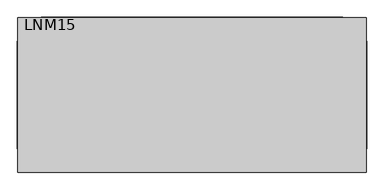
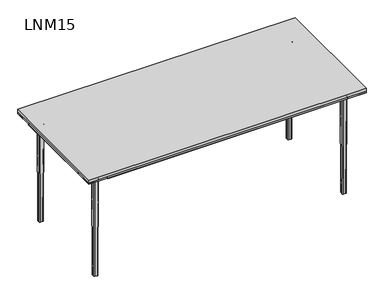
"""IFC4 building model written with IfcOpenShell, lengths in millimetres: furniture geometry, Contact Desks and Operative Twin Desks : LNM15."""

from ifc_helpers import new_model, si_unit, point, frame, origin, place, context, project, spatial, polyline, circle_curve, ellipse_curve, trimmed, outline, extrude, faceted_brep, source, transform, mapped, element, save
from ifc_brep_helpers import plane_surface, cylinder_surface, revolved_surface, extruded_surface, advanced_brep


def lnm15_e7bb8237(model_context):
    return source(origin(), model_context, "Body", "SolidModel", [
        extrude(outline(polyline([(900.0, -280.0), (900.0, -400.0), (780.0, -400.0), (780.0, -280.0), (900.0, -280.0)])), frame((0.0, 0.0, 710.0), z_axis=(0.0, 0.0, 1.0), x_axis=(1.0, 0.0, 0.0)), (0.0, 0.0, 1.0), 10.0),
        extrude(outline(polyline([(900.0, 400.0), (900.0, 280.0), (780.0, 280.0), (780.0, 400.0), (900.0, 400.0)])), frame((0.0, 0.0, 710.0), z_axis=(0.0, 0.0, 1.0), x_axis=(1.0, 0.0, 0.0)), (0.0, 0.0, 1.0), 10.0),
        extrude(outline(polyline([(-780.0, 400.0), (-780.0, 280.0), (-900.0, 280.0), (-900.0, 400.0), (-780.0, 400.0)])), frame((0.0, 0.0, 710.0), z_axis=(0.0, 0.0, 1.0), x_axis=(1.0, 0.0, 0.0)), (0.0, 0.0, 1.0), 10.0),
        extrude(outline(polyline([(-900.0, 280.0), (-780.0, 280.0), (-780.0, -280.0), (-900.0, -280.0), (-900.0, 280.0)])), frame((0.0, 0.0, 710.0), z_axis=(0.0, 0.0, 1.0), x_axis=(1.0, 0.0, 0.0)), (0.0, 0.0, 1.0), 10.0),
        extrude(outline(polyline([(780.0, 280.0), (900.0, 280.0), (900.0, -280.0), (780.0, -280.0), (780.0, 280.0)])), frame((0.0, 0.0, 710.0), z_axis=(0.0, 0.0, 1.0), x_axis=(1.0, 0.0, 0.0)), (0.0, 0.0, 1.0), 10.0),
        extrude(outline(polyline([(780.0, -280.0), (780.0, -400.0), (-780.0, -400.0), (-780.0, -280.0), (780.0, -280.0)])), frame((0.0, 0.0, 710.0), z_axis=(0.0, 0.0, 1.0), x_axis=(1.0, 0.0, 0.0)), (0.0, 0.0, 1.0), 10.0),
        extrude(outline(polyline([(780.0, 400.0), (780.0, 280.0), (-780.0, 280.0), (-780.0, 400.0), (780.0, 400.0)])), frame((0.0, 0.0, 710.0), z_axis=(0.0, 0.0, 1.0), x_axis=(1.0, 0.0, 0.0)), (0.0, 0.0, 1.0), 10.0),
        extrude(outline(polyline([(710.0, 780.0), (675.0, 780.0), (675.0, 828.7129935), (710.0, 901.7129935), (710.0, 780.0)])), frame((0.0, -280.0, 0.0), z_axis=(0.0, 1.0, 0.0), x_axis=(0.0, 0.0, 1.0)), (0.0, 0.0, 1.0), 560.0),
        extrude(outline(polyline([(710.0, -780.0), (710.0, -901.7129935), (675.0, -828.7129935), (675.0, -780.0), (710.0, -780.0)])), frame((0.0, -280.0, 0.0), z_axis=(0.0, 1.0, 0.0), x_axis=(0.0, 0.0, 1.0)), (0.0, 0.0, 1.0), 560.0),
        extrude(outline(polyline([(280.0, 710.0), (401.7129935, 710.0), (328.7129935, 675.0), (280.0, 675.0), (280.0, 710.0)])), frame((-780.0, 0.0, 0.0), z_axis=(1.0, 0.0, 0.0), x_axis=(0.0, 1.0, 0.0)), (0.0, 0.0, 1.0), 1560.0),
        extrude(outline(polyline([(-280.0, 710.0), (-280.0, 675.0), (-328.7129935, 675.0), (-401.7129935, 710.0), (-280.0, 710.0)])), frame((-780.0, 0.0, 0.0), z_axis=(1.0, 0.0, 0.0), x_axis=(0.0, 1.0, 0.0)), (0.0, 0.0, 1.0), 1560.0),
        faceted_brep([(-780.0, 280.0, 710.0), (-780.0, 400.0, 710.0), (-900.0, 400.0, 710.0), (-900.0, 280.0, 710.0), (-780.0, 280.0, 675.0), (-827.0, 280.0, 675.0), (-827.0, 327.0, 675.0), (-780.0, 327.0, 675.0)], [[[0, 1, 2, 3]], [[4, 5, 6, 7]], [[1, 0, 4, 7]], [[0, 3, 5, 4]], [[6, 2, 1, 7]], [[2, 6, 5, 3]]]),
        advanced_brep(
        [(-787.0, 295.0, 675.0), (-787.0, 319.0, 675.0), (-795.0, 327.0, 675.0), (-819.0, 327.0, 675.0), (-827.0, 319.0, 675.0), (-827.0, 295.0, 675.0), (-819.0, 287.0, 675.0), (-795.0, 287.0, 675.0), (-819.0, 292.0, 665.0), (-822.0, 295.0, 665.0), (-822.0, 319.0, 665.0), (-819.0, 322.0, 665.0), (-795.0, 322.0, 665.0), (-792.0, 319.0, 665.0), (-792.0, 295.0, 665.0), (-795.0, 292.0, 665.0), (-787.0, 295.0, 672.0), (-787.0, 319.0, 672.0), (-795.0, 327.0, 672.0), (-819.0, 327.0, 672.0), (-827.0, 319.0, 672.0), (-827.0, 295.0, 672.0), (-819.0, 287.0, 672.0), (-795.0, 287.0, 672.0)],
        [
            (0, 1),
            (1, 2, circle_curve(frame((-795.0, 319.0, 675.0), z_axis=(0.0, 0.0, 1.0), x_axis=(0.0, -1.0000000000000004, 0.0)), 8.0)),
            (2, 3),
            (3, 4, circle_curve(frame((-819.0, 319.0, 675.0), z_axis=(0.0, 0.0, 1.0), x_axis=(0.0, -1.0000000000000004, 0.0)), 8.0)),
            (4, 5),
            (5, 6, circle_curve(frame((-819.0, 295.0, 675.0), z_axis=(0.0, 0.0, 1.0), x_axis=(0.0, -1.0000000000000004, 0.0)), 8.0)),
            (6, 7),
            (7, 0, circle_curve(frame((-795.0, 295.0, 675.0), z_axis=(0.0, 0.0, 1.0), x_axis=(0.0, -1.0000000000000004, 0.0)), 8.0)),
            (8, 9, circle_curve(frame((-819.0, 295.0, 665.0), z_axis=(0.0, 0.0, -1.0), x_axis=(0.0, -1.0000000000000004, 0.0)), 3.0)),
            (9, 10),
            (10, 11, circle_curve(frame((-819.0, 319.0, 665.0), z_axis=(0.0, 0.0, -1.0), x_axis=(-1.0000000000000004, 0.0, 0.0)), 3.0)),
            (11, 12),
            (12, 13, circle_curve(frame((-795.0, 319.0, 665.0), z_axis=(0.0, 0.0, -1.0), x_axis=(0.0, 1.0000000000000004, 0.0)), 3.0)),
            (13, 14),
            (14, 15, circle_curve(frame((-795.0, 295.0, 665.0), z_axis=(0.0, 0.0, -1.0), x_axis=(1.0000000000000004, 0.0, 0.0)), 3.0)),
            (15, 8),
            (0, 16),
            (16, 17),
            (17, 1),
            (17, 18, circle_curve(frame((-795.0, 319.0, 672.0), z_axis=(0.0, 0.0, 1.0), x_axis=(0.0, -1.0000000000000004, 0.0)), 8.0)),
            (18, 2),
            (18, 19),
            (19, 3),
            (19, 20, circle_curve(frame((-819.0, 319.0, 672.0), z_axis=(0.0, 0.0, 1.0), x_axis=(0.0, -1.0000000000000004, 0.0)), 8.0)),
            (20, 4),
            (20, 21),
            (21, 5),
            (21, 22, circle_curve(frame((-819.0, 295.0, 672.0), z_axis=(0.0, 0.0, 1.0), x_axis=(0.0, -1.0000000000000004, 0.0)), 8.0)),
            (22, 6),
            (22, 23),
            (23, 7),
            (23, 16, circle_curve(frame((-795.0, 295.0, 672.0), z_axis=(0.0, 0.0, 1.0), x_axis=(0.0, -1.0000000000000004, 0.0)), 8.0)),
            (21, 9, circle_curve(frame((-830.9600528, 295.0, 663.8856766), z_axis=(0.0, 1.0000000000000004, 0.0), x_axis=(-1.0000000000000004, 0.0, 0.0)), 9.0290787)),
            (8, 22, circle_curve(frame((-819.0, 283.0399472, 663.8856766), z_axis=(1.0000000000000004, 0.0, 0.0), x_axis=(0.0, -1.0000000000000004, 0.0)), 9.0290787)),
            (20, 10, circle_curve(frame((-830.9600528, 319.0, 663.8856766), z_axis=(0.0, 1.0, 0.0), x_axis=(-1.0000000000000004, 0.0, 0.0)), 9.0290787)),
            (19, 11, circle_curve(frame((-819.0, 330.9600528, 663.8856766), z_axis=(1.0000000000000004, 0.0, 0.0), x_axis=(0.0, 1.0000000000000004, 0.0)), 9.0290787)),
            (18, 12, circle_curve(frame((-795.0, 330.9600528, 663.8856766), z_axis=(1.0, 0.0, 0.0), x_axis=(0.0, 1.0000000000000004, 0.0)), 9.0290787)),
            (17, 13, circle_curve(frame((-783.0399472, 319.0, 663.8856766), z_axis=(0.0, -1.0000000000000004, 0.0), x_axis=(1.0000000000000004, 0.0, 0.0)), 9.0290787)),
            (16, 14, circle_curve(frame((-783.0399472, 295.0, 663.8856766), z_axis=(0.0, -1.0, 0.0), x_axis=(1.0000000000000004, 0.0, 0.0)), 9.0290787)),
            (23, 15, circle_curve(frame((-795.0, 283.0399472, 663.8856766), z_axis=(-1.0000000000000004, 0.0, 0.0), x_axis=(0.0, -1.0000000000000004, 0.0)), 9.0290787)),
        ],
        [
            plane_surface(frame((-787.0, 980.663284, 675.0), z_axis=(0.0, 0.0, 1.0), x_axis=(0.0, 1.0, 0.0))),
            plane_surface(frame((-787.0, 980.663284, 665.0), z_axis=(0.0, 0.0, -1.0), x_axis=(0.0, -1.0, 0.0))),
            plane_surface(frame((-787.0, 295.0, 675.0), z_axis=(1.0, 0.0, 0.0), x_axis=(0.0, 0.0, -1.0))),
            cylinder_surface(frame((-795.0, 319.0, 665.0), z_axis=(0.0, 0.0, 1.0), x_axis=(0.0, -1.0000000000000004, 0.0)), 8.0),
            plane_surface(frame((-795.0, 327.0, 675.0), z_axis=(0.0, 1.0, 0.0), x_axis=(0.0, 0.0, -1.0))),
            cylinder_surface(frame((-819.0, 319.0, 665.0), z_axis=(0.0, 0.0, 1.0), x_axis=(0.0, -1.0000000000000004, 0.0)), 8.0),
            plane_surface(frame((-827.0, 319.0, 675.0), z_axis=(-1.0, 0.0, 0.0), x_axis=(0.0, 0.0, -1.0))),
            cylinder_surface(frame((-819.0, 295.0, 665.0), z_axis=(0.0, 0.0, 1.0), x_axis=(0.0, -1.0000000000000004, 0.0)), 8.0),
            plane_surface(frame((-819.0, 287.0, 675.0), z_axis=(0.0, -1.0, 0.0), x_axis=(0.0, 0.0, -1.0))),
            cylinder_surface(frame((-795.0, 295.0, 665.0), z_axis=(0.0, 0.0, 1.0), x_axis=(0.0, -1.0000000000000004, 0.0)), 8.0),
            revolved_surface(trimmed(ellipse_curve(frame((-819.0, 283.0399472, 663.8856766), z_axis=(-1.0000000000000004, 0.0, 0.0), x_axis=(0.0, -1.0000000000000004, 0.0)), 9.0290787, 9.0290787), [point((-819.0, 287.0, 672.0))], [point((-819.0, 292.0, 665.0))], True, "CARTESIAN"), (-819.0, 295.0, 0.0), (0.0, 0.0, -1.0)),
            revolved_surface(polyline([(-839.9891315, 295.0, 663.8856766), (-839.9891315, 319.0, 663.8856766)]), (-830.9600528, 295.0, 663.8856766), (0.0, -1.0000000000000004, 0.0)),
            revolved_surface(trimmed(ellipse_curve(frame((-830.9600528, 319.0, 663.8856766), z_axis=(0.0, 1.0000000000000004, 0.0), x_axis=(-1.0000000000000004, 0.0, 0.0)), 9.0290787, 9.0290787), [point((-827.0, 319.0, 672.0))], [point((-822.0, 319.0, 665.0))], True, "CARTESIAN"), (-819.0, 319.0, 0.0), (0.0, 0.0, -1.0)),
            revolved_surface(polyline([(-819.0, 339.98913150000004, 663.8856766), (-795.0, 339.98913150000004, 663.8856766)]), (-819.0, 330.9600528, 663.8856766), (-1.0000000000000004, 0.0, 0.0)),
            revolved_surface(trimmed(ellipse_curve(frame((-795.0, 330.9600528, 663.8856766), z_axis=(1.0000000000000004, 0.0, 0.0), x_axis=(0.0, 1.0000000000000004, 0.0)), 9.0290787, 9.0290787), [point((-795.0, 327.0, 672.0))], [point((-795.0, 322.0, 665.0))], True, "CARTESIAN"), (-795.0, 319.0, 0.0), (0.0, 0.0, -1.0)),
            revolved_surface(polyline([(-774.0108685, 319.0, 663.8856766), (-774.0108685, 295.0, 663.8856766)]), (-783.0399472, 319.0, 663.8856766), (0.0, 1.0000000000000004, 0.0)),
            revolved_surface(trimmed(ellipse_curve(frame((-783.0399472, 295.0, 663.8856766), z_axis=(0.0, -1.0000000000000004, 0.0), x_axis=(1.0000000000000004, 0.0, 0.0)), 9.0290787, 9.0290787), [point((-787.0, 295.0, 672.0))], [point((-792.0, 295.0, 665.0))], True, "CARTESIAN"), (-795.0, 295.0, 0.0), (0.0, 0.0, -1.0)),
            revolved_surface(polyline([(-795.0, 274.01086849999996, 663.8856766), (-819.0, 274.01086849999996, 663.8856766)]), (-795.0, 283.0399472, 663.8856766), (1.0000000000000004, 0.0, 0.0)),
        ],
        [
            (0, [[1, 2, 3, 4, 5, 6, 7, 8]]),
            (1, [[9, 10, 11, 12, 13, 14, 15, 16]]),
            (2, [[-1, 17, 18, 19]]),
            (3, [[-2, -19, 20, 21]]),
            (4, [[-3, -21, 22, 23]]),
            (5, [[-4, -23, 24, 25]]),
            (6, [[-5, -25, 26, 27]]),
            (7, [[-6, -27, 28, 29]]),
            (8, [[-7, -29, 30, 31]]),
            (9, [[-8, -31, 32, -17]]),
            (10, [[33, -9, 34, -28]]),
            (11, [[-33, -26, 35, -10]]),
            (12, [[-35, -24, 36, -11]]),
            (13, [[-36, -22, 37, -12]]),
            (14, [[-37, -20, 38, -13]]),
            (15, [[-38, -18, 39, -14]]),
            (16, [[-39, -32, 40, -15]]),
            (17, [[-34, -16, -40, -30]]),
        ],
    ),
        advanced_brep(
        [(-819.0, 322.0, 665.0), (-822.0, 319.0, 665.0), (-822.0, 295.0, 665.0), (-819.0, 292.0, 665.0), (-795.0, 292.0, 665.0), (-792.0, 295.0, 665.0), (-792.0, 319.0, 665.0), (-795.0, 322.0, 665.0), (-816.0, 319.0, 0.0), (-798.0, 319.0, 0.0), (-795.0, 316.0, 0.0), (-795.0, 298.0, 0.0), (-798.0, 295.0, 0.0), (-816.0, 295.0, 0.0), (-819.0, 298.0, 0.0), (-819.0, 316.0, 0.0)],
        [
            (0, 1, circle_curve(frame((-819.0, 319.0, 665.0), z_axis=(0.0, 0.0, 1.0), x_axis=(0.0, -1.0, 0.0)), 3.0)),
            (1, 2),
            (2, 3, circle_curve(frame((-819.0, 295.0, 665.0), z_axis=(0.0, 0.0, 1.0), x_axis=(0.0, -1.0, 0.0)), 3.0)),
            (3, 4),
            (4, 5, circle_curve(frame((-795.0, 295.0, 665.0), z_axis=(0.0, 0.0, 1.0), x_axis=(0.0, -1.0, 0.0)), 3.0)),
            (5, 6),
            (6, 7, circle_curve(frame((-795.0, 319.0, 665.0), z_axis=(0.0, 0.0, 1.0), x_axis=(0.0, -1.0, 0.0)), 3.0)),
            (7, 0),
            (8, 9),
            (9, 10, circle_curve(frame((-798.0, 316.0, 0.0), z_axis=(0.0, 0.0, -1.0), x_axis=(0.0, -1.0, 0.0)), 3.0)),
            (10, 11),
            (11, 12, circle_curve(frame((-798.0, 298.0, 0.0), z_axis=(0.0, 0.0, -1.0), x_axis=(0.0, -1.0, 0.0)), 3.0)),
            (12, 13),
            (13, 14, circle_curve(frame((-816.0, 298.0, 0.0), z_axis=(0.0, 0.0, -1.0), x_axis=(0.0, -1.0, 0.0)), 3.0)),
            (14, 15),
            (15, 8, circle_curve(frame((-816.0, 316.0, 0.0), z_axis=(0.0, 0.0, -1.0), x_axis=(0.0, -1.0, 0.0)), 3.0)),
            (15, 1),
            (0, 8),
            (14, 2),
            (13, 3),
            (12, 4),
            (11, 5),
            (10, 6),
            (9, 7),
        ],
        [
            plane_surface(frame((-807.0, 307.0, 665.0), z_axis=(0.0, 0.0, 1.0), x_axis=(0.0, 1.0, 0.0))),
            plane_surface(frame((-807.0, 307.0, 0.0), z_axis=(0.0, 0.0, -1.0), x_axis=(0.0, 1.0, 0.0))),
            extruded_surface(trimmed(circle_curve(frame((-816.0, 316.0, 0.0), z_axis=(0.0, 0.0, 1.0), x_axis=(0.0, -1.0, 0.0)), 3.0), [point((-816.0, 319.0, 0.0))], [point((-819.0, 316.0, 0.0))], True, "CARTESIAN"), (-3.0, 3.0, 665.0), 665.0135336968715),
            plane_surface(frame((-819.0, 307.0, 0.0), z_axis=(-0.9999898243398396, 0.0, -0.004511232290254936), x_axis=(0.0, -1.0, 0.0))),
            extruded_surface(trimmed(circle_curve(frame((-816.0, 298.0, 0.0), z_axis=(0.0, 0.0, 1.0), x_axis=(0.0, -1.0, 0.0)), 3.0), [point((-819.0, 298.0, 0.0))], [point((-816.0, 295.0, 0.0))], True, "CARTESIAN"), (-3.0, -3.0, 665.0), 665.0135336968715),
            plane_surface(frame((-807.0, 295.0, 0.0), z_axis=(0.0, -0.9999898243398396, -0.004511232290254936), x_axis=(1.0, 0.0, 0.0))),
            extruded_surface(trimmed(circle_curve(frame((-798.0, 298.0, 0.0), z_axis=(0.0, 0.0, 1.0), x_axis=(0.0, -1.0, 0.0)), 3.0), [point((-798.0, 295.0, 0.0))], [point((-795.0, 298.0, 0.0))], True, "CARTESIAN"), (3.0, -3.0, 665.0), 665.0135336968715),
            plane_surface(frame((-795.0, 307.0, 0.0), z_axis=(0.9999898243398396, 0.0, -0.004511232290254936), x_axis=(0.0, 1.0, 0.0))),
            extruded_surface(trimmed(circle_curve(frame((-798.0, 316.0, 0.0), z_axis=(0.0, 0.0, 1.0), x_axis=(0.0, -1.0, 0.0)), 3.0), [point((-795.0, 316.0, 0.0))], [point((-798.0, 319.0, 0.0))], True, "CARTESIAN"), (3.0, 3.0, 665.0), 665.0135336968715),
            plane_surface(frame((-807.0, 319.0, 0.0), z_axis=(0.0, 0.9999898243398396, -0.004511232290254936), x_axis=(-1.0, 0.0, 0.0))),
        ],
        [
            (0, [[1, 2, 3, 4, 5, 6, 7, 8]]),
            (1, [[9, 10, 11, 12, 13, 14, 15, 16]]),
            (2, [[-16, 17, -1, 18]]),
            (3, [[-15, 19, -2, -17]]),
            (4, [[-14, 20, -3, -19]]),
            (5, [[-13, 21, -4, -20]]),
            (6, [[-12, 22, -5, -21]]),
            (7, [[-11, 23, -6, -22]]),
            (8, [[-10, 24, -7, -23]]),
            (9, [[-9, -18, -8, -24]]),
        ],
    ),
        faceted_brep([(780.0, -280.0, 710.0), (780.0, -400.0, 710.0), (900.0, -400.0, 710.0), (900.0, -280.0, 710.0), (780.0, -280.0, 675.0), (827.0, -280.0, 675.0), (827.0, -327.0, 675.0), (780.0, -327.0, 675.0)], [[[0, 1, 2, 3]], [[4, 5, 6, 7]], [[1, 0, 4, 7]], [[0, 3, 5, 4]], [[6, 2, 1, 7]], [[2, 6, 5, 3]]]),
        advanced_brep(
        [(787.0, -295.0, 675.0), (787.0, -319.0, 675.0), (795.0, -327.0, 675.0), (819.0, -327.0, 675.0), (827.0, -319.0, 675.0), (827.0, -295.0, 675.0), (819.0, -287.0, 675.0), (795.0, -287.0, 675.0), (819.0, -292.0, 665.0), (822.0, -295.0, 665.0), (822.0, -319.0, 665.0), (819.0, -322.0, 665.0), (795.0, -322.0, 665.0), (792.0, -319.0, 665.0), (792.0, -295.0, 665.0), (795.0, -292.0, 665.0), (787.0, -295.0, 672.0), (787.0, -319.0, 672.0), (795.0, -327.0, 672.0), (819.0, -327.0, 672.0), (827.0, -319.0, 672.0), (827.0, -295.0, 672.0), (819.0, -287.0, 672.0), (795.0, -287.0, 672.0)],
        [
            (0, 1),
            (1, 2, circle_curve(frame((795.0, -319.0, 675.0), z_axis=(0.0, 0.0, 1.0), x_axis=(0.0, 1.0000000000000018, 0.0)), 8.0)),
            (2, 3),
            (3, 4, circle_curve(frame((819.0, -319.0, 675.0), z_axis=(0.0, 0.0, 1.0), x_axis=(0.0, 1.0000000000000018, 0.0)), 8.0)),
            (4, 5),
            (5, 6, circle_curve(frame((819.0, -295.0, 675.0), z_axis=(0.0, 0.0, 1.0), x_axis=(0.0, 1.0000000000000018, 0.0)), 8.0)),
            (6, 7),
            (7, 0, circle_curve(frame((795.0, -295.0, 675.0), z_axis=(0.0, 0.0, 1.0), x_axis=(0.0, 1.0000000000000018, 0.0)), 8.0)),
            (8, 9, circle_curve(frame((819.0, -295.0, 665.0), z_axis=(0.0, 0.0, -1.0), x_axis=(0.0, 1.0000000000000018, 0.0)), 3.0)),
            (9, 10),
            (10, 11, circle_curve(frame((819.0, -319.0, 665.0), z_axis=(0.0, 0.0, -1.0), x_axis=(1.0000000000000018, 0.0, 0.0)), 3.0)),
            (11, 12),
            (12, 13, circle_curve(frame((795.0, -319.0, 665.0), z_axis=(0.0, 0.0, -1.0), x_axis=(0.0, -1.0000000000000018, 0.0)), 3.0)),
            (13, 14),
            (14, 15, circle_curve(frame((795.0, -295.0, 665.0), z_axis=(0.0, 0.0, -1.0), x_axis=(-1.0000000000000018, 0.0, 0.0)), 3.0)),
            (15, 8),
            (0, 16),
            (16, 17),
            (17, 1),
            (17, 18, circle_curve(frame((795.0, -319.0, 672.0), z_axis=(0.0, 0.0, 1.0), x_axis=(0.0, 1.0000000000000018, 0.0)), 8.0)),
            (18, 2),
            (18, 19),
            (19, 3),
            (19, 20, circle_curve(frame((819.0, -319.0, 672.0), z_axis=(0.0, 0.0, 1.0), x_axis=(0.0, 1.0000000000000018, 0.0)), 8.0)),
            (20, 4),
            (20, 21),
            (21, 5),
            (21, 22, circle_curve(frame((819.0, -295.0, 672.0), z_axis=(0.0, 0.0, 1.0), x_axis=(0.0, 1.0000000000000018, 0.0)), 8.0)),
            (22, 6),
            (22, 23),
            (23, 7),
            (23, 16, circle_curve(frame((795.0, -295.0, 672.0), z_axis=(0.0, 0.0, 1.0), x_axis=(0.0, 1.0000000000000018, 0.0)), 8.0)),
            (21, 9, circle_curve(frame((830.9600528, -295.0, 663.8856766), z_axis=(0.0, -1.0000000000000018, 0.0), x_axis=(1.0000000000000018, 0.0, 0.0)), 9.0290787)),
            (8, 22, circle_curve(frame((819.0, -283.0399472, 663.8856766), z_axis=(-1.0000000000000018, 0.0, 0.0), x_axis=(0.0, 1.0000000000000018, 0.0)), 9.0290787)),
            (20, 10, circle_curve(frame((830.9600528, -319.0, 663.8856766), z_axis=(0.0, -1.0, 0.0), x_axis=(1.0000000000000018, 0.0, 0.0)), 9.0290787)),
            (19, 11, circle_curve(frame((819.0, -330.9600528, 663.8856766), z_axis=(-1.0000000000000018, 0.0, 0.0), x_axis=(0.0, -1.0000000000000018, 0.0)), 9.0290787)),
            (18, 12, circle_curve(frame((795.0, -330.9600528, 663.8856766), z_axis=(-1.0, 0.0, 0.0), x_axis=(0.0, -1.0000000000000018, 0.0)), 9.0290787)),
            (17, 13, circle_curve(frame((783.0399472, -319.0, 663.8856766), z_axis=(0.0, 1.0000000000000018, 0.0), x_axis=(-1.0000000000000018, 0.0, 0.0)), 9.0290787)),
            (16, 14, circle_curve(frame((783.0399472, -295.0, 663.8856766), z_axis=(0.0, 1.0, 0.0), x_axis=(-1.0000000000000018, 0.0, 0.0)), 9.0290787)),
            (23, 15, circle_curve(frame((795.0, -283.0399472, 663.8856766), z_axis=(1.0000000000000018, 0.0, 0.0), x_axis=(0.0, 1.0000000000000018, 0.0)), 9.0290787)),
        ],
        [
            plane_surface(frame((787.0, -980.663284, 675.0), z_axis=(0.0, 0.0, 1.0), x_axis=(0.0, -1.0, 0.0))),
            plane_surface(frame((787.0, -980.663284, 665.0), z_axis=(0.0, 0.0, -1.0), x_axis=(0.0, 1.0, 0.0))),
            plane_surface(frame((787.0, -295.0, 675.0), z_axis=(-1.0, 0.0, 0.0), x_axis=(0.0, 0.0, -1.0))),
            cylinder_surface(frame((795.0, -319.0, 665.0), z_axis=(0.0, 0.0, 1.0), x_axis=(0.0, 1.0000000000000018, 0.0)), 8.0),
            plane_surface(frame((795.0, -327.0, 675.0), z_axis=(0.0, -1.0, 0.0), x_axis=(0.0, 0.0, -1.0))),
            cylinder_surface(frame((819.0, -319.0, 665.0), z_axis=(0.0, 0.0, 1.0), x_axis=(0.0, 1.0000000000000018, 0.0)), 8.0),
            plane_surface(frame((827.0, -319.0, 675.0), z_axis=(1.0, 0.0, 0.0), x_axis=(0.0, 0.0, -1.0))),
            cylinder_surface(frame((819.0, -295.0, 665.0), z_axis=(0.0, 0.0, 1.0), x_axis=(0.0, 1.0000000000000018, 0.0)), 8.0),
            plane_surface(frame((819.0, -287.0, 675.0), z_axis=(0.0, 1.0, 0.0), x_axis=(0.0, 0.0, -1.0))),
            cylinder_surface(frame((795.0, -295.0, 665.0), z_axis=(0.0, 0.0, 1.0), x_axis=(0.0, 1.0000000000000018, 0.0)), 8.0),
            revolved_surface(trimmed(ellipse_curve(frame((819.0, -283.0399472, 663.8856766), z_axis=(1.0000000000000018, 0.0, 0.0), x_axis=(0.0, 1.0000000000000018, 0.0)), 9.0290787, 9.0290787), [point((819.0, -287.0, 672.0))], [point((819.0, -292.0, 665.0))], True, "CARTESIAN"), (819.0, -295.0, 0.0), (0.0, 0.0, -1.0)),
            revolved_surface(polyline([(839.9891315, -295.0, 663.8856766), (839.9891315, -319.0000000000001, 663.8856766)]), (830.9600528, -295.0, 663.8856766), (0.0, 1.0000000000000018, 0.0)),
            revolved_surface(trimmed(ellipse_curve(frame((830.9600528, -319.0, 663.8856766), z_axis=(0.0, -1.0000000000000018, 0.0), x_axis=(1.0000000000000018, 0.0, 0.0)), 9.0290787, 9.0290787), [point((827.0, -319.0, 672.0))], [point((822.0, -319.0, 665.0))], True, "CARTESIAN"), (819.0, -319.0, 0.0), (0.0, 0.0, -1.0)),
            revolved_surface(polyline([(819.0, -339.98913150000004, 663.8856766), (794.9999999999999, -339.98913150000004, 663.8856766)]), (819.0, -330.9600528, 663.8856766), (1.0000000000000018, 0.0, 0.0)),
            revolved_surface(trimmed(ellipse_curve(frame((795.0, -330.9600528, 663.8856766), z_axis=(-1.0000000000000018, 0.0, 0.0), x_axis=(0.0, -1.0000000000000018, 0.0)), 9.0290787, 9.0290787), [point((795.0, -327.0, 672.0))], [point((795.0, -322.0, 665.0))], True, "CARTESIAN"), (795.0, -319.0, 0.0), (0.0, 0.0, -1.0)),
            revolved_surface(polyline([(774.0108685, -319.0, 663.8856766), (774.0108685, -294.9999999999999, 663.8856766)]), (783.0399472, -319.0, 663.8856766), (0.0, -1.0000000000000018, 0.0)),
            revolved_surface(trimmed(ellipse_curve(frame((783.0399472, -295.0, 663.8856766), z_axis=(0.0, 1.0000000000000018, 0.0), x_axis=(-1.0000000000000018, 0.0, 0.0)), 9.0290787, 9.0290787), [point((787.0, -295.0, 672.0))], [point((792.0, -295.0, 665.0))], True, "CARTESIAN"), (795.0, -295.0, 0.0), (0.0, 0.0, -1.0)),
            revolved_surface(polyline([(795.0, -274.01086849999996, 663.8856766), (819.0000000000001, -274.01086849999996, 663.8856766)]), (795.0, -283.0399472, 663.8856766), (-1.0000000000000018, 0.0, 0.0)),
        ],
        [
            (0, [[1, 2, 3, 4, 5, 6, 7, 8]]),
            (1, [[9, 10, 11, 12, 13, 14, 15, 16]]),
            (2, [[-1, 17, 18, 19]]),
            (3, [[-2, -19, 20, 21]]),
            (4, [[-3, -21, 22, 23]]),
            (5, [[-4, -23, 24, 25]]),
            (6, [[-5, -25, 26, 27]]),
            (7, [[-6, -27, 28, 29]]),
            (8, [[-7, -29, 30, 31]]),
            (9, [[-8, -31, 32, -17]]),
            (10, [[33, -9, 34, -28]]),
            (11, [[-33, -26, 35, -10]]),
            (12, [[-35, -24, 36, -11]]),
            (13, [[-36, -22, 37, -12]]),
            (14, [[-37, -20, 38, -13]]),
            (15, [[-38, -18, 39, -14]]),
            (16, [[-39, -32, 40, -15]]),
            (17, [[-34, -16, -40, -30]]),
        ],
    ),
        advanced_brep(
        [(819.0, -322.0, 665.0), (822.0, -319.0, 665.0), (822.0, -295.0, 665.0), (819.0, -292.0, 665.0), (795.0, -292.0, 665.0), (792.0, -295.0, 665.0), (792.0, -319.0, 665.0), (795.0, -322.0, 665.0), (816.0, -319.0, 0.0), (798.0, -319.0, 0.0), (795.0, -316.0, 0.0), (795.0, -298.0, 0.0), (798.0, -295.0, 0.0), (816.0, -295.0, 0.0), (819.0, -298.0, 0.0), (819.0, -316.0, 0.0)],
        [
            (0, 1, circle_curve(frame((819.0, -319.0, 665.0), z_axis=(0.0, 0.0, 1.0), x_axis=(0.0, 1.0, 0.0)), 3.0)),
            (1, 2),
            (2, 3, circle_curve(frame((819.0, -295.0, 665.0), z_axis=(0.0, 0.0, 1.0), x_axis=(0.0, 1.0, 0.0)), 3.0)),
            (3, 4),
            (4, 5, circle_curve(frame((795.0, -295.0, 665.0), z_axis=(0.0, 0.0, 1.0), x_axis=(0.0, 1.0, 0.0)), 3.0)),
            (5, 6),
            (6, 7, circle_curve(frame((795.0, -319.0, 665.0), z_axis=(0.0, 0.0, 1.0), x_axis=(0.0, 1.0, 0.0)), 3.0)),
            (7, 0),
            (8, 9),
            (9, 10, circle_curve(frame((798.0, -316.0, 0.0), z_axis=(0.0, 0.0, -1.0), x_axis=(0.0, 1.0, 0.0)), 3.0)),
            (10, 11),
            (11, 12, circle_curve(frame((798.0, -298.0, 0.0), z_axis=(0.0, 0.0, -1.0), x_axis=(0.0, 1.0, 0.0)), 3.0)),
            (12, 13),
            (13, 14, circle_curve(frame((816.0, -298.0, 0.0), z_axis=(0.0, 0.0, -1.0), x_axis=(0.0, 1.0, 0.0)), 3.0)),
            (14, 15),
            (15, 8, circle_curve(frame((816.0, -316.0, 0.0), z_axis=(0.0, 0.0, -1.0), x_axis=(0.0, 1.0, 0.0)), 3.0)),
            (15, 1),
            (0, 8),
            (14, 2),
            (13, 3),
            (12, 4),
            (11, 5),
            (10, 6),
            (9, 7),
        ],
        [
            plane_surface(frame((807.0, -307.0, 665.0), z_axis=(0.0, 0.0, 1.0), x_axis=(0.0, -1.0, 0.0))),
            plane_surface(frame((807.0, -307.0, 0.0), z_axis=(0.0, 0.0, -1.0), x_axis=(0.0, -1.0, 0.0))),
            extruded_surface(trimmed(circle_curve(frame((816.0, -316.0, 0.0), z_axis=(0.0, 0.0, 1.0), x_axis=(0.0, 1.0, 0.0)), 3.0), [point((816.0, -319.0, 0.0))], [point((819.0, -316.0, 0.0))], True, "CARTESIAN"), (3.0, -3.0, 665.0), 665.0135336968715),
            plane_surface(frame((819.0, -307.0, 0.0), z_axis=(0.9999898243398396, 0.0, -0.004511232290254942), x_axis=(0.0, 1.0, 0.0))),
            extruded_surface(trimmed(circle_curve(frame((816.0, -298.0, 0.0), z_axis=(0.0, 0.0, 1.0), x_axis=(0.0, 1.0, 0.0)), 3.0), [point((819.0, -298.0, 0.0))], [point((816.0, -295.0, 0.0))], True, "CARTESIAN"), (3.0, 3.0, 665.0), 665.0135336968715),
            plane_surface(frame((807.0, -295.0, 0.0), z_axis=(0.0, 0.9999898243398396, -0.004511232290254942), x_axis=(-1.0, 0.0, 0.0))),
            extruded_surface(trimmed(circle_curve(frame((798.0, -298.0, 0.0), z_axis=(0.0, 0.0, 1.0), x_axis=(0.0, 1.0, 0.0)), 3.0), [point((798.0, -295.0, 0.0))], [point((795.0, -298.0, 0.0))], True, "CARTESIAN"), (-3.0, 3.0, 665.0), 665.0135336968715),
            plane_surface(frame((795.0, -307.0, 0.0), z_axis=(-0.9999898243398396, 0.0, -0.004511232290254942), x_axis=(0.0, -1.0, 0.0))),
            extruded_surface(trimmed(circle_curve(frame((798.0, -316.0, 0.0), z_axis=(0.0, 0.0, 1.0), x_axis=(0.0, 1.0, 0.0)), 3.0), [point((795.0, -316.0, 0.0))], [point((798.0, -319.0, 0.0))], True, "CARTESIAN"), (-3.0, -3.0, 665.0), 665.0135336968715),
            plane_surface(frame((807.0, -319.0, 0.0), z_axis=(0.0, -0.9999898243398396, -0.004511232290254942), x_axis=(1.0, 0.0, 0.0))),
        ],
        [
            (0, [[1, 2, 3, 4, 5, 6, 7, 8]]),
            (1, [[9, 10, 11, 12, 13, 14, 15, 16]]),
            (2, [[-16, 17, -1, 18]]),
            (3, [[-15, 19, -2, -17]]),
            (4, [[-14, 20, -3, -19]]),
            (5, [[-13, 21, -4, -20]]),
            (6, [[-12, 22, -5, -21]]),
            (7, [[-11, 23, -6, -22]]),
            (8, [[-10, 24, -7, -23]]),
            (9, [[-9, -18, -8, -24]]),
        ],
    ),
        faceted_brep([(780.0, 280.0, 710.0), (900.0, 280.0, 710.0), (900.0, 400.0, 710.0), (780.0, 400.0, 710.0), (780.0, 280.0, 675.0), (780.0, 327.0, 675.0), (827.0, 327.0, 675.0), (827.0, 280.0, 675.0)], [[[0, 1, 2, 3]], [[4, 5, 6, 7]], [[1, 0, 4, 7]], [[0, 3, 5, 4]], [[6, 2, 1, 7]], [[2, 6, 5, 3]]]),
        advanced_brep(
        [(795.0, 287.0, 675.0), (819.0, 287.0, 675.0), (827.0, 295.0, 675.0), (827.0, 319.0, 675.0), (819.0, 327.0, 675.0), (795.0, 327.0, 675.0), (787.0, 319.0, 675.0), (787.0, 295.0, 675.0), (792.0, 319.0, 665.0), (795.0, 322.0, 665.0), (819.0, 322.0, 665.0), (822.0, 319.0, 665.0), (822.0, 295.0, 665.0), (819.0, 292.0, 665.0), (795.0, 292.0, 665.0), (792.0, 295.0, 665.0), (795.0, 287.0, 672.0), (819.0, 287.0, 672.0), (827.0, 295.0, 672.0), (827.0, 319.0, 672.0), (819.0, 327.0, 672.0), (795.0, 327.0, 672.0), (787.0, 319.0, 672.0), (787.0, 295.0, 672.0)],
        [
            (0, 1),
            (1, 2, circle_curve(frame((819.0, 295.0, 675.0), z_axis=(0.0, 0.0, 1.0), x_axis=(-1.0000000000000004, 0.0, 0.0)), 8.0)),
            (2, 3),
            (3, 4, circle_curve(frame((819.0, 319.0, 675.0), z_axis=(0.0, 0.0, 1.0), x_axis=(-1.0000000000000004, 0.0, 0.0)), 8.0)),
            (4, 5),
            (5, 6, circle_curve(frame((795.0, 319.0, 675.0), z_axis=(0.0, 0.0, 1.0), x_axis=(-1.0000000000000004, 0.0, 0.0)), 8.0)),
            (6, 7),
            (7, 0, circle_curve(frame((795.0, 295.0, 675.0), z_axis=(0.0, 0.0, 1.0), x_axis=(-1.0000000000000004, 0.0, 0.0)), 8.0)),
            (8, 9, circle_curve(frame((795.0, 319.0, 665.0), z_axis=(0.0, 0.0, -1.0), x_axis=(-1.0000000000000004, 0.0, 0.0)), 3.0)),
            (9, 10),
            (10, 11, circle_curve(frame((819.0, 319.0, 665.0), z_axis=(0.0, 0.0, -1.0), x_axis=(0.0, 1.0000000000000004, 0.0)), 3.0)),
            (11, 12),
            (12, 13, circle_curve(frame((819.0, 295.0, 665.0), z_axis=(0.0, 0.0, -1.0), x_axis=(1.0000000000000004, 0.0, 0.0)), 3.0)),
            (13, 14),
            (14, 15, circle_curve(frame((795.0, 295.0, 665.0), z_axis=(0.0, 0.0, -1.0), x_axis=(0.0, -1.0000000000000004, 0.0)), 3.0)),
            (15, 8),
            (0, 16),
            (16, 17),
            (17, 1),
            (17, 18, circle_curve(frame((819.0, 295.0, 672.0), z_axis=(0.0, 0.0, 1.0), x_axis=(-1.0000000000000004, 0.0, 0.0)), 8.0)),
            (18, 2),
            (18, 19),
            (19, 3),
            (19, 20, circle_curve(frame((819.0, 319.0, 672.0), z_axis=(0.0, 0.0, 1.0), x_axis=(-1.0000000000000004, 0.0, 0.0)), 8.0)),
            (20, 4),
            (20, 21),
            (21, 5),
            (21, 22, circle_curve(frame((795.0, 319.0, 672.0), z_axis=(0.0, 0.0, 1.0), x_axis=(-1.0000000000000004, 0.0, 0.0)), 8.0)),
            (22, 6),
            (22, 23),
            (23, 7),
            (23, 16, circle_curve(frame((795.0, 295.0, 672.0), z_axis=(0.0, 0.0, 1.0), x_axis=(-1.0000000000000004, 0.0, 0.0)), 8.0)),
            (21, 9, circle_curve(frame((795.0, 330.9600528, 663.8856766), z_axis=(1.0000000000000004, 0.0, 0.0), x_axis=(0.0, 1.0000000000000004, 0.0)), 9.0290787)),
            (8, 22, circle_curve(frame((783.0399472, 319.0, 663.8856766), z_axis=(0.0, -1.0000000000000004, 0.0), x_axis=(-1.0000000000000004, 0.0, 0.0)), 9.0290787)),
            (20, 10, circle_curve(frame((819.0, 330.9600528, 663.8856766), z_axis=(1.0, 0.0, 0.0), x_axis=(0.0, 1.0000000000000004, 0.0)), 9.0290787)),
            (19, 11, circle_curve(frame((830.9600528, 319.0, 663.8856766), z_axis=(0.0, -1.0000000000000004, 0.0), x_axis=(1.0000000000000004, 0.0, 0.0)), 9.0290787)),
            (18, 12, circle_curve(frame((830.9600528, 295.0, 663.8856766), z_axis=(0.0, -1.0, 0.0), x_axis=(1.0000000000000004, 0.0, 0.0)), 9.0290787)),
            (17, 13, circle_curve(frame((819.0, 283.0399472, 663.8856766), z_axis=(-1.0000000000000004, 0.0, 0.0), x_axis=(0.0, -1.0000000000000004, 0.0)), 9.0290787)),
            (16, 14, circle_curve(frame((795.0, 283.0399472, 663.8856766), z_axis=(-1.0, 0.0, 0.0), x_axis=(0.0, -1.0000000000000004, 0.0)), 9.0290787)),
            (23, 15, circle_curve(frame((783.0399472, 295.0, 663.8856766), z_axis=(0.0, 1.0000000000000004, 0.0), x_axis=(-1.0000000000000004, 0.0, 0.0)), 9.0290787)),
        ],
        [
            plane_surface(frame((1480.663284, 287.0, 675.0), z_axis=(0.0, 0.0, 1.0), x_axis=(1.0, 0.0, 0.0))),
            plane_surface(frame((1480.663284, 287.0, 665.0), z_axis=(0.0, 0.0, -1.0), x_axis=(-1.0, 0.0, 0.0))),
            plane_surface(frame((795.0, 287.0, 675.0), z_axis=(0.0, -1.0, 0.0), x_axis=(0.0, 0.0, -1.0))),
            cylinder_surface(frame((819.0, 295.0, 665.0), z_axis=(0.0, 0.0, 1.0), x_axis=(-1.0000000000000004, 0.0, 0.0)), 8.0),
            plane_surface(frame((827.0, 295.0, 675.0), z_axis=(1.0, 0.0, 0.0), x_axis=(0.0, 0.0, -1.0))),
            cylinder_surface(frame((819.0, 319.0, 665.0), z_axis=(0.0, 0.0, 1.0), x_axis=(-1.0000000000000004, 0.0, 0.0)), 8.0),
            plane_surface(frame((819.0, 327.0, 675.0), z_axis=(0.0, 1.0, 0.0), x_axis=(0.0, 0.0, -1.0))),
            cylinder_surface(frame((795.0, 319.0, 665.0), z_axis=(0.0, 0.0, 1.0), x_axis=(-1.0000000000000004, 0.0, 0.0)), 8.0),
            plane_surface(frame((787.0, 319.0, 675.0), z_axis=(-1.0, 0.0, 0.0), x_axis=(0.0, 0.0, -1.0))),
            cylinder_surface(frame((795.0, 295.0, 665.0), z_axis=(0.0, 0.0, 1.0), x_axis=(-1.0000000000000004, 0.0, 0.0)), 8.0),
            revolved_surface(trimmed(ellipse_curve(frame((783.0399472, 319.0, 663.8856766), z_axis=(0.0, 1.0000000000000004, 0.0), x_axis=(-1.0000000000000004, 0.0, 0.0)), 9.0290787, 9.0290787), [point((787.0, 319.0, 672.0))], [point((792.0, 319.0, 665.0))], True, "CARTESIAN"), (795.0, 319.0, 0.0), (0.0, 0.0, -1.0)),
            revolved_surface(polyline([(795.0, 339.98913150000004, 663.8856766), (819.0, 339.98913150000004, 663.8856766)]), (795.0, 330.9600528, 663.8856766), (-1.0000000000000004, 0.0, 0.0)),
            revolved_surface(trimmed(ellipse_curve(frame((819.0, 330.9600528, 663.8856766), z_axis=(1.0000000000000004, 0.0, 0.0), x_axis=(0.0, 1.0000000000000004, 0.0)), 9.0290787, 9.0290787), [point((819.0, 327.0, 672.0))], [point((819.0, 322.0, 665.0))], True, "CARTESIAN"), (819.0, 319.0, 0.0), (0.0, 0.0, -1.0)),
            revolved_surface(polyline([(839.9891315, 319.0, 663.8856766), (839.9891315, 295.0, 663.8856766)]), (830.9600528, 319.0, 663.8856766), (0.0, 1.0000000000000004, 0.0)),
            revolved_surface(trimmed(ellipse_curve(frame((830.9600528, 295.0, 663.8856766), z_axis=(0.0, -1.0000000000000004, 0.0), x_axis=(1.0000000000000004, 0.0, 0.0)), 9.0290787, 9.0290787), [point((827.0, 295.0, 672.0))], [point((822.0, 295.0, 665.0))], True, "CARTESIAN"), (819.0, 295.0, 0.0), (0.0, 0.0, -1.0)),
            revolved_surface(polyline([(819.0, 274.01086849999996, 663.8856766), (795.0, 274.01086849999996, 663.8856766)]), (819.0, 283.0399472, 663.8856766), (1.0000000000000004, 0.0, 0.0)),
            revolved_surface(trimmed(ellipse_curve(frame((795.0, 283.0399472, 663.8856766), z_axis=(-1.0000000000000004, 0.0, 0.0), x_axis=(0.0, -1.0000000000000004, 0.0)), 9.0290787, 9.0290787), [point((795.0, 287.0, 672.0))], [point((795.0, 292.0, 665.0))], True, "CARTESIAN"), (795.0, 295.0, 0.0), (0.0, 0.0, -1.0)),
            revolved_surface(polyline([(774.0108685, 295.0, 663.8856766), (774.0108685, 319.0, 663.8856766)]), (783.0399472, 295.0, 663.8856766), (0.0, -1.0000000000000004, 0.0)),
        ],
        [
            (0, [[1, 2, 3, 4, 5, 6, 7, 8]]),
            (1, [[9, 10, 11, 12, 13, 14, 15, 16]]),
            (2, [[-1, 17, 18, 19]]),
            (3, [[-2, -19, 20, 21]]),
            (4, [[-3, -21, 22, 23]]),
            (5, [[-4, -23, 24, 25]]),
            (6, [[-5, -25, 26, 27]]),
            (7, [[-6, -27, 28, 29]]),
            (8, [[-7, -29, 30, 31]]),
            (9, [[-8, -31, 32, -17]]),
            (10, [[33, -9, 34, -28]]),
            (11, [[-33, -26, 35, -10]]),
            (12, [[-35, -24, 36, -11]]),
            (13, [[-36, -22, 37, -12]]),
            (14, [[-37, -20, 38, -13]]),
            (15, [[-38, -18, 39, -14]]),
            (16, [[-39, -32, 40, -15]]),
            (17, [[-34, -16, -40, -30]]),
        ],
    ),
        advanced_brep(
        [(822.0, 319.0, 665.0), (819.0, 322.0, 665.0), (795.0, 322.0, 665.0), (792.0, 319.0, 665.0), (792.0, 295.0, 665.0), (795.0, 292.0, 665.0), (819.0, 292.0, 665.0), (822.0, 295.0, 665.0), (819.0, 316.0, 0.0), (819.0, 298.0, 0.0), (816.0, 295.0, 0.0), (798.0, 295.0, 0.0), (795.0, 298.0, 0.0), (795.0, 316.0, 0.0), (798.0, 319.0, 0.0), (816.0, 319.0, 0.0)],
        [
            (0, 1, circle_curve(frame((819.0, 319.0, 665.0), z_axis=(0.0, 0.0, 1.0), x_axis=(-1.0, 0.0, 0.0)), 3.0)),
            (1, 2),
            (2, 3, circle_curve(frame((795.0, 319.0, 665.0), z_axis=(0.0, 0.0, 1.0), x_axis=(-1.0, 0.0, 0.0)), 3.0)),
            (3, 4),
            (4, 5, circle_curve(frame((795.0, 295.0, 665.0), z_axis=(0.0, 0.0, 1.0), x_axis=(-1.0, 0.0, 0.0)), 3.0)),
            (5, 6),
            (6, 7, circle_curve(frame((819.0, 295.0, 665.0), z_axis=(0.0, 0.0, 1.0), x_axis=(-1.0, 0.0, 0.0)), 3.0)),
            (7, 0),
            (8, 9),
            (9, 10, circle_curve(frame((816.0, 298.0, 0.0), z_axis=(0.0, 0.0, -1.0), x_axis=(-1.0, 0.0, 0.0)), 3.0)),
            (10, 11),
            (11, 12, circle_curve(frame((798.0, 298.0, 0.0), z_axis=(0.0, 0.0, -1.0), x_axis=(-1.0, 0.0, 0.0)), 3.0)),
            (12, 13),
            (13, 14, circle_curve(frame((798.0, 316.0, 0.0), z_axis=(0.0, 0.0, -1.0), x_axis=(-1.0, 0.0, 0.0)), 3.0)),
            (14, 15),
            (15, 8, circle_curve(frame((816.0, 316.0, 0.0), z_axis=(0.0, 0.0, -1.0), x_axis=(-1.0, 0.0, 0.0)), 3.0)),
            (15, 1),
            (0, 8),
            (14, 2),
            (13, 3),
            (12, 4),
            (11, 5),
            (10, 6),
            (9, 7),
        ],
        [
            plane_surface(frame((807.0, 307.0, 665.0), z_axis=(0.0, 0.0, 1.0), x_axis=(1.0, 0.0, 0.0))),
            plane_surface(frame((807.0, 307.0, 0.0), z_axis=(0.0, 0.0, -1.0), x_axis=(1.0, 0.0, 0.0))),
            extruded_surface(trimmed(circle_curve(frame((816.0, 316.0, 0.0), z_axis=(0.0, 0.0, 1.0), x_axis=(-1.0, 0.0, 0.0)), 3.0), [point((819.0, 316.0, 0.0))], [point((816.0, 319.0, 0.0))], True, "CARTESIAN"), (3.0, 3.0, 665.0), 665.0135336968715),
            plane_surface(frame((807.0, 319.0, 0.0), z_axis=(0.0, 0.9999898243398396, -0.004511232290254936), x_axis=(-1.0, 0.0, 0.0))),
            extruded_surface(trimmed(circle_curve(frame((798.0, 316.0, 0.0), z_axis=(0.0, 0.0, 1.0), x_axis=(-1.0, 0.0, 0.0)), 3.0), [point((798.0, 319.0, 0.0))], [point((795.0, 316.0, 0.0))], True, "CARTESIAN"), (-3.0, 3.0, 665.0), 665.0135336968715),
            plane_surface(frame((795.0, 307.0, 0.0), z_axis=(-0.9999898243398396, 0.0, -0.004511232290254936), x_axis=(0.0, -1.0, 0.0))),
            extruded_surface(trimmed(circle_curve(frame((798.0, 298.0, 0.0), z_axis=(0.0, 0.0, 1.0), x_axis=(-1.0, 0.0, 0.0)), 3.0), [point((795.0, 298.0, 0.0))], [point((798.0, 295.0, 0.0))], True, "CARTESIAN"), (-3.0, -3.0, 665.0), 665.0135336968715),
            plane_surface(frame((807.0, 295.0, 0.0), z_axis=(0.0, -0.9999898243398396, -0.004511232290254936), x_axis=(1.0, 0.0, 0.0))),
            extruded_surface(trimmed(circle_curve(frame((816.0, 298.0, 0.0), z_axis=(0.0, 0.0, 1.0), x_axis=(-1.0, 0.0, 0.0)), 3.0), [point((816.0, 295.0, 0.0))], [point((819.0, 298.0, 0.0))], True, "CARTESIAN"), (3.0, -3.0, 665.0), 665.0135336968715),
            plane_surface(frame((819.0, 307.0, 0.0), z_axis=(0.9999898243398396, 0.0, -0.004511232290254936), x_axis=(0.0, 1.0, 0.0))),
        ],
        [
            (0, [[1, 2, 3, 4, 5, 6, 7, 8]]),
            (1, [[9, 10, 11, 12, 13, 14, 15, 16]]),
            (2, [[-16, 17, -1, 18]]),
            (3, [[-15, 19, -2, -17]]),
            (4, [[-14, 20, -3, -19]]),
            (5, [[-13, 21, -4, -20]]),
            (6, [[-12, 22, -5, -21]]),
            (7, [[-11, 23, -6, -22]]),
            (8, [[-10, 24, -7, -23]]),
            (9, [[-9, -18, -8, -24]]),
        ],
    ),
        faceted_brep([(-780.0, -280.0, 710.0), (-900.0, -280.0, 710.0), (-900.0, -400.0, 710.0), (-780.0, -400.0, 710.0), (-780.0, -280.0, 675.0), (-780.0, -327.0, 675.0), (-827.0, -327.0, 675.0), (-827.0, -280.0, 675.0)], [[[0, 1, 2, 3]], [[4, 5, 6, 7]], [[1, 0, 4, 7]], [[0, 3, 5, 4]], [[6, 2, 1, 7]], [[2, 6, 5, 3]]]),
        advanced_brep(
        [(-795.0, -287.0, 675.0), (-819.0, -287.0, 675.0), (-827.0, -295.0, 675.0), (-827.0, -319.0, 675.0), (-819.0, -327.0, 675.0), (-795.0, -327.0, 675.0), (-787.0, -319.0, 675.0), (-787.0, -295.0, 675.0), (-792.0, -319.0, 665.0), (-795.0, -322.0, 665.0), (-819.0, -322.0, 665.0), (-822.0, -319.0, 665.0), (-822.0, -295.0, 665.0), (-819.0, -292.0, 665.0), (-795.0, -292.0, 665.0), (-792.0, -295.0, 665.0), (-795.0, -287.0, 672.0), (-819.0, -287.0, 672.0), (-827.0, -295.0, 672.0), (-827.0, -319.0, 672.0), (-819.0, -327.0, 672.0), (-795.0, -327.0, 672.0), (-787.0, -319.0, 672.0), (-787.0, -295.0, 672.0)],
        [
            (0, 1),
            (1, 2, circle_curve(frame((-819.0, -295.0, 675.0), z_axis=(0.0, 0.0, 1.0), x_axis=(1.0, 0.0, 0.0)), 8.0)),
            (2, 3),
            (3, 4, circle_curve(frame((-819.0, -319.0, 675.0), z_axis=(0.0, 0.0, 1.0), x_axis=(1.0, 0.0, 0.0)), 8.0)),
            (4, 5),
            (5, 6, circle_curve(frame((-795.0, -319.0, 675.0), z_axis=(0.0, 0.0, 1.0), x_axis=(1.0, 0.0, 0.0)), 8.0)),
            (6, 7),
            (7, 0, circle_curve(frame((-795.0, -295.0, 675.0), z_axis=(0.0, 0.0, 1.0), x_axis=(1.0, 0.0, 0.0)), 8.0)),
            (8, 9, circle_curve(frame((-795.0, -319.0, 665.0), z_axis=(0.0, 0.0, -1.0), x_axis=(1.0, 0.0, 0.0)), 3.0)),
            (9, 10),
            (10, 11, circle_curve(frame((-819.0, -319.0, 665.0), z_axis=(0.0, 0.0, -1.0), x_axis=(0.0, -1.0, 0.0)), 3.0)),
            (11, 12),
            (12, 13, circle_curve(frame((-819.0, -295.0, 665.0), z_axis=(0.0, 0.0, -1.0), x_axis=(-1.0, 0.0, 0.0)), 3.0)),
            (13, 14),
            (14, 15, circle_curve(frame((-795.0, -295.0, 665.0), z_axis=(0.0, 0.0, -1.0), x_axis=(0.0, 1.0, 0.0)), 3.0)),
            (15, 8),
            (0, 16),
            (16, 17),
            (17, 1),
            (17, 18, circle_curve(frame((-819.0, -295.0, 672.0), z_axis=(0.0, 0.0, 1.0), x_axis=(1.0, 0.0, 0.0)), 8.0)),
            (18, 2),
            (18, 19),
            (19, 3),
            (19, 20, circle_curve(frame((-819.0, -319.0, 672.0), z_axis=(0.0, 0.0, 1.0), x_axis=(1.0, 0.0, 0.0)), 8.0)),
            (20, 4),
            (20, 21),
            (21, 5),
            (21, 22, circle_curve(frame((-795.0, -319.0, 672.0), z_axis=(0.0, 0.0, 1.0), x_axis=(1.0, 0.0, 0.0)), 8.0)),
            (22, 6),
            (22, 23),
            (23, 7),
            (23, 16, circle_curve(frame((-795.0, -295.0, 672.0), z_axis=(0.0, 0.0, 1.0), x_axis=(1.0, 0.0, 0.0)), 8.0)),
            (21, 9, circle_curve(frame((-795.0, -330.9600528, 663.8856766), z_axis=(-1.0, 0.0, 0.0), x_axis=(0.0, -1.0, 0.0)), 9.0290787)),
            (8, 22, circle_curve(frame((-783.0399472, -319.0, 663.8856766), z_axis=(0.0, 1.0, 0.0), x_axis=(1.0, 0.0, 0.0)), 9.0290787)),
            (20, 10, circle_curve(frame((-819.0, -330.9600528, 663.8856766), z_axis=(-1.0, 0.0, 0.0), x_axis=(0.0, -1.0, 0.0)), 9.0290787)),
            (19, 11, circle_curve(frame((-830.9600528, -319.0, 663.8856766), z_axis=(0.0, 1.0, 0.0), x_axis=(-1.0, 0.0, 0.0)), 9.0290787)),
            (18, 12, circle_curve(frame((-830.9600528, -295.0, 663.8856766), z_axis=(0.0, 1.0, 0.0), x_axis=(-1.0, 0.0, 0.0)), 9.0290787)),
            (17, 13, circle_curve(frame((-819.0, -283.0399472, 663.8856766), z_axis=(1.0, 0.0, 0.0), x_axis=(0.0, 1.0, 0.0)), 9.0290787)),
            (16, 14, circle_curve(frame((-795.0, -283.0399472, 663.8856766), z_axis=(1.0, 0.0, 0.0), x_axis=(0.0, 1.0, 0.0)), 9.0290787)),
            (23, 15, circle_curve(frame((-783.0399472, -295.0, 663.8856766), z_axis=(0.0, -1.0, 0.0), x_axis=(1.0, 0.0, 0.0)), 9.0290787)),
        ],
        [
            plane_surface(frame((-1480.663284, -287.0, 675.0), z_axis=(0.0, 0.0, 1.0), x_axis=(-1.0, 0.0, 0.0))),
            plane_surface(frame((-1480.663284, -287.0, 665.0), z_axis=(0.0, 0.0, -1.0), x_axis=(1.0, 0.0, 0.0))),
            plane_surface(frame((-795.0, -287.0, 675.0), z_axis=(0.0, 1.0, 0.0), x_axis=(0.0, 0.0, -1.0))),
            cylinder_surface(frame((-819.0, -295.0, 665.0), z_axis=(0.0, 0.0, 1.0), x_axis=(1.0, 0.0, 0.0)), 8.0),
            plane_surface(frame((-827.0, -295.0, 675.0), z_axis=(-1.0, 0.0, 0.0), x_axis=(0.0, 0.0, -1.0))),
            cylinder_surface(frame((-819.0, -319.0, 665.0), z_axis=(0.0, 0.0, 1.0), x_axis=(1.0, 0.0, 0.0)), 8.0),
            plane_surface(frame((-819.0, -327.0, 675.0), z_axis=(0.0, -1.0, 0.0), x_axis=(0.0, 0.0, -1.0))),
            cylinder_surface(frame((-795.0, -319.0, 665.0), z_axis=(0.0, 0.0, 1.0), x_axis=(1.0, 0.0, 0.0)), 8.0),
            plane_surface(frame((-787.0, -319.0, 675.0), z_axis=(1.0, 0.0, 0.0), x_axis=(0.0, 0.0, -1.0))),
            cylinder_surface(frame((-795.0, -295.0, 665.0), z_axis=(0.0, 0.0, 1.0), x_axis=(1.0, 0.0, 0.0)), 8.0),
            revolved_surface(trimmed(ellipse_curve(frame((-783.0399472, -319.0, 663.8856766), z_axis=(0.0, -1.0, 0.0), x_axis=(1.0, 0.0, 0.0)), 9.0290787, 9.0290787), [point((-787.0, -319.0, 672.0))], [point((-792.0, -319.0, 665.0))], True, "CARTESIAN"), (-795.0, -319.0, 0.0), (0.0, 0.0, -1.0)),
            revolved_surface(polyline([(-795.0, -339.98913150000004, 663.8856766), (-819.0, -339.98913150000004, 663.8856766)]), (-795.0, -330.9600528, 663.8856766), (1.0, 0.0, 0.0)),
            revolved_surface(trimmed(ellipse_curve(frame((-819.0, -330.9600528, 663.8856766), z_axis=(-1.0, 0.0, 0.0), x_axis=(0.0, -1.0, 0.0)), 9.0290787, 9.0290787), [point((-819.0, -327.0, 672.0))], [point((-819.0, -322.0, 665.0))], True, "CARTESIAN"), (-819.0, -319.0, 0.0), (0.0, 0.0, -1.0)),
            revolved_surface(polyline([(-839.9891315, -319.0, 663.8856766), (-839.9891315, -295.0, 663.8856766)]), (-830.9600528, -319.0, 663.8856766), (0.0, -1.0, 0.0)),
            revolved_surface(trimmed(ellipse_curve(frame((-830.9600528, -295.0, 663.8856766), z_axis=(0.0, 1.0, 0.0), x_axis=(-1.0, 0.0, 0.0)), 9.0290787, 9.0290787), [point((-827.0, -295.0, 672.0))], [point((-822.0, -295.0, 665.0))], True, "CARTESIAN"), (-819.0, -295.0, 0.0), (0.0, 0.0, -1.0)),
            revolved_surface(polyline([(-819.0, -274.01086849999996, 663.8856766), (-795.0, -274.01086849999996, 663.8856766)]), (-819.0, -283.0399472, 663.8856766), (-1.0, 0.0, 0.0)),
            revolved_surface(trimmed(ellipse_curve(frame((-795.0, -283.0399472, 663.8856766), z_axis=(1.0, 0.0, 0.0), x_axis=(0.0, 1.0, 0.0)), 9.0290787, 9.0290787), [point((-795.0, -287.0, 672.0))], [point((-795.0, -292.0, 665.0))], True, "CARTESIAN"), (-795.0, -295.0, 0.0), (0.0, 0.0, -1.0)),
            revolved_surface(polyline([(-774.0108685, -295.0, 663.8856766), (-774.0108685, -319.0, 663.8856766)]), (-783.0399472, -295.0, 663.8856766), (0.0, 1.0, 0.0)),
        ],
        [
            (0, [[1, 2, 3, 4, 5, 6, 7, 8]]),
            (1, [[9, 10, 11, 12, 13, 14, 15, 16]]),
            (2, [[-1, 17, 18, 19]]),
            (3, [[-2, -19, 20, 21]]),
            (4, [[-3, -21, 22, 23]]),
            (5, [[-4, -23, 24, 25]]),
            (6, [[-5, -25, 26, 27]]),
            (7, [[-6, -27, 28, 29]]),
            (8, [[-7, -29, 30, 31]]),
            (9, [[-8, -31, 32, -17]]),
            (10, [[33, -9, 34, -28]]),
            (11, [[-33, -26, 35, -10]]),
            (12, [[-35, -24, 36, -11]]),
            (13, [[-36, -22, 37, -12]]),
            (14, [[-37, -20, 38, -13]]),
            (15, [[-38, -18, 39, -14]]),
            (16, [[-39, -32, 40, -15]]),
            (17, [[-34, -16, -40, -30]]),
        ],
    ),
        advanced_brep(
        [(-822.0, -319.0, 665.0), (-819.0, -322.0, 665.0), (-795.0, -322.0, 665.0), (-792.0, -319.0, 665.0), (-792.0, -295.0, 665.0), (-795.0, -292.0, 665.0), (-819.0, -292.0, 665.0), (-822.0, -295.0, 665.0), (-819.0, -316.0, 0.0), (-819.0, -298.0, 0.0), (-816.0, -295.0, 0.0), (-798.0, -295.0, 0.0), (-795.0, -298.0, 0.0), (-795.0, -316.0, 0.0), (-798.0, -319.0, 0.0), (-816.0, -319.0, 0.0)],
        [
            (0, 1, circle_curve(frame((-819.0, -319.0, 665.0), z_axis=(0.0, 0.0, 1.0), x_axis=(1.0, 0.0, 0.0)), 3.0)),
            (1, 2),
            (2, 3, circle_curve(frame((-795.0, -319.0, 665.0), z_axis=(0.0, 0.0, 1.0), x_axis=(1.0, 0.0, 0.0)), 3.0)),
            (3, 4),
            (4, 5, circle_curve(frame((-795.0, -295.0, 665.0), z_axis=(0.0, 0.0, 1.0), x_axis=(1.0, 0.0, 0.0)), 3.0)),
            (5, 6),
            (6, 7, circle_curve(frame((-819.0, -295.0, 665.0), z_axis=(0.0, 0.0, 1.0), x_axis=(1.0, 0.0, 0.0)), 3.0)),
            (7, 0),
            (8, 9),
            (9, 10, circle_curve(frame((-816.0, -298.0, 0.0), z_axis=(0.0, 0.0, -1.0), x_axis=(1.0, 0.0, 0.0)), 3.0)),
            (10, 11),
            (11, 12, circle_curve(frame((-798.0, -298.0, 0.0), z_axis=(0.0, 0.0, -1.0), x_axis=(1.0, 0.0, 0.0)), 3.0)),
            (12, 13),
            (13, 14, circle_curve(frame((-798.0, -316.0, 0.0), z_axis=(0.0, 0.0, -1.0), x_axis=(1.0, 0.0, 0.0)), 3.0)),
            (14, 15),
            (15, 8, circle_curve(frame((-816.0, -316.0, 0.0), z_axis=(0.0, 0.0, -1.0), x_axis=(1.0, 0.0, 0.0)), 3.0)),
            (15, 1),
            (0, 8),
            (14, 2),
            (13, 3),
            (12, 4),
            (11, 5),
            (10, 6),
            (9, 7),
        ],
        [
            plane_surface(frame((-807.0, -307.0, 665.0), z_axis=(0.0, 0.0, 1.0), x_axis=(-1.0, 0.0, 0.0))),
            plane_surface(frame((-807.0, -307.0, 0.0), z_axis=(0.0, 0.0, -1.0), x_axis=(-1.0, 0.0, 0.0))),
            extruded_surface(trimmed(circle_curve(frame((-816.0, -316.0, 0.0), z_axis=(0.0, 0.0, 1.0), x_axis=(1.0, 0.0, 0.0)), 3.0), [point((-819.0, -316.0, 0.0))], [point((-816.0, -319.0, 0.0))], True, "CARTESIAN"), (-3.0, -3.0, 665.0), 665.0135336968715),
            plane_surface(frame((-807.0, -319.0, 0.0), z_axis=(0.0, -0.9999898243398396, -0.004511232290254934), x_axis=(1.0, 0.0, 0.0))),
            extruded_surface(trimmed(circle_curve(frame((-798.0, -316.0, 0.0), z_axis=(0.0, 0.0, 1.0), x_axis=(1.0, 0.0, 0.0)), 3.0), [point((-798.0, -319.0, 0.0))], [point((-795.0, -316.0, 0.0))], True, "CARTESIAN"), (3.0, -3.0, 665.0), 665.0135336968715),
            plane_surface(frame((-795.0, -307.0, 0.0), z_axis=(0.9999898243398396, 0.0, -0.004511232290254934), x_axis=(0.0, 1.0, 0.0))),
            extruded_surface(trimmed(circle_curve(frame((-798.0, -298.0, 0.0), z_axis=(0.0, 0.0, 1.0), x_axis=(1.0, 0.0, 0.0)), 3.0), [point((-795.0, -298.0, 0.0))], [point((-798.0, -295.0, 0.0))], True, "CARTESIAN"), (3.0, 3.0, 665.0), 665.0135336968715),
            plane_surface(frame((-807.0, -295.0, 0.0), z_axis=(0.0, 0.9999898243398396, -0.004511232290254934), x_axis=(-1.0, 0.0, 0.0))),
            extruded_surface(trimmed(circle_curve(frame((-816.0, -298.0, 0.0), z_axis=(0.0, 0.0, 1.0), x_axis=(1.0, 0.0, 0.0)), 3.0), [point((-816.0, -295.0, 0.0))], [point((-819.0, -298.0, 0.0))], True, "CARTESIAN"), (-3.0, 3.0, 665.0), 665.0135336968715),
            plane_surface(frame((-819.0, -307.0, 0.0), z_axis=(-0.9999898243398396, 0.0, -0.004511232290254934), x_axis=(0.0, -1.0, 0.0))),
        ],
        [
            (0, [[1, 2, 3, 4, 5, 6, 7, 8]]),
            (1, [[9, 10, 11, 12, 13, 14, 15, 16]]),
            (2, [[-16, 17, -1, 18]]),
            (3, [[-15, 19, -2, -17]]),
            (4, [[-14, 20, -3, -19]]),
            (5, [[-13, 21, -4, -20]]),
            (6, [[-12, 22, -5, -21]]),
            (7, [[-11, 23, -6, -22]]),
            (8, [[-10, 24, -7, -23]]),
            (9, [[-9, -18, -8, -24]]),
        ],
    ),
        extrude(outline(polyline([(-780.0, -280.0), (-780.0, -400.0), (-900.0, -400.0), (-900.0, -280.0), (-780.0, -280.0)])), frame((0.0, 0.0, 710.0), z_axis=(0.0, 0.0, 1.0), x_axis=(1.0, 0.0, 0.0)), (0.0, 0.0, 1.0), 10.0),
        extrude(outline(polyline([(900.0, 400.0), (900.0, -400.0), (-900.0, -400.0), (-900.0, 400.0), (900.0, 400.0)])), frame((0.0, 0.0, 720.0), z_axis=(0.0, 0.0, 1.0), x_axis=(1.0, 0.0, 0.0)), (0.0, 0.0, 1.0), 20.0),
    ])


if __name__ == "__main__":
    model = new_model("IFC4")
    model_context = context("Model", 3, world=origin())
    ifc_project = project(units=[si_unit("LENGTHUNIT", "METRE", prefix="MILLI")], contexts=[model_context])
    site = spatial("IfcSite", under=ifc_project)
    building = spatial("IfcBuilding", under=site)
    placement = place(None, origin())
    lnm15_shape = lnm15_e7bb8237(model_context)
    element("IfcFurniture", 1, ObjectType="Contact Desks and Operative Twin Desks : LNM15", at=placement, inside=building, context=model_context, shape_type="MappedRepresentation", body=[
        mapped(lnm15_shape, transform((0.0, 0.0, 0.0), x_axis=(1.0, 0.0, 0.0), y_axis=(0.0, 1.0, 0.0), z_axis=(0.0, 0.0, 1.0))),
    ])
    save(model, "model.ifc")
